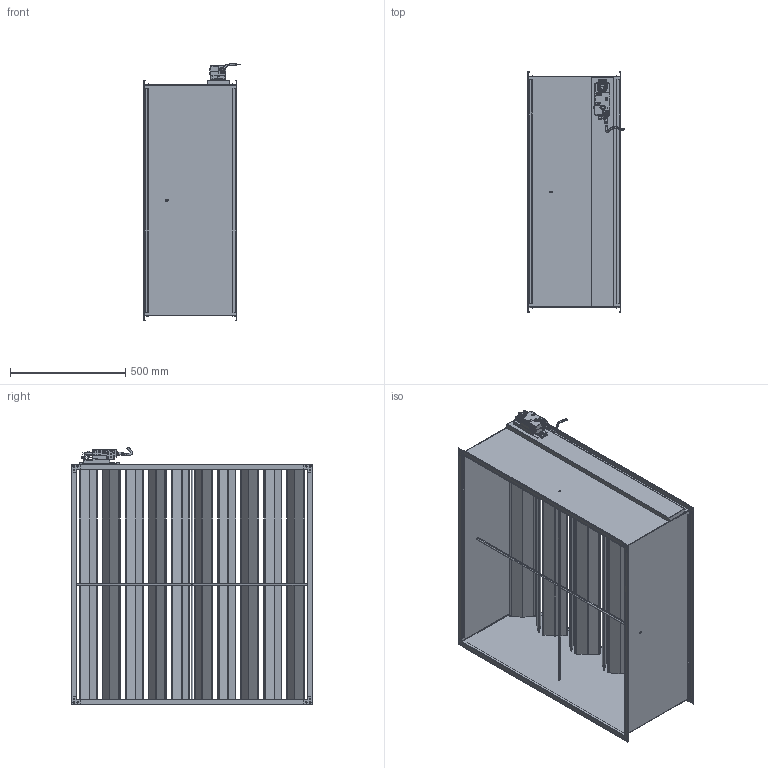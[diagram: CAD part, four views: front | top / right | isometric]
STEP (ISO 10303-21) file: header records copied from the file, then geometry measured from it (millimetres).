
FILE_DESCRIPTION (( 'STEP AP214' ), '1' );
FILE_NAME ('VAV-S10001000.STEP', '2025-05-08T12:28:41', ( '' ), ( '' ), 'SwSTEP 2.0', 'SolidWorks 2025', '' );
FILE_SCHEMA (( 'AUTOMOTIVE_DESIGN' ));
Length unit declared in the file: millimetre
Products named in the file (1): VAV-S10001000
Bounding box: 419.82 x 1041 x 1113.67 mm (x, y, z)
Surface area: 7122532.5 mm2 (no closed solid volume)
Topology: 0 solids, 48 shells, 2194 faces, 5769 edges, 3681 vertices
Faces by surface type: plane 1579, cylinder 562, bspline 24, sphere 18, cone 10, torus 1
Full cylindrical faces by diameter (mm): 1 x4, 6 x17, 8 x1, 9 x8, 11 x1, 20 x1, 21 x2
Entity records: 95409 total; most frequent: CARTESIAN_POINT 42219, ORIENTED_EDGE 11331, DIRECTION 7529, EDGE_CURVE 5689, VERTEX_POINT 3657, B_SPLINE_CURVE_WITH_KNOTS 3170, AXIS2_PLACEMENT_3D 2851, EDGE_LOOP 2409
